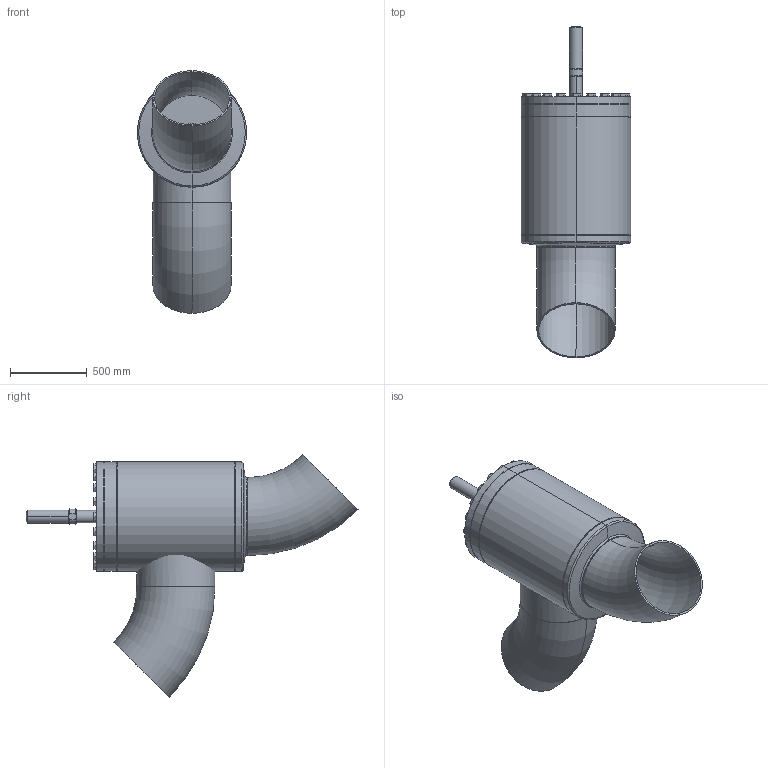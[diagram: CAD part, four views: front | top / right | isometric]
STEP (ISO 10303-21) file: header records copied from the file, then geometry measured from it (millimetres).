
FILE_DESCRIPTION (( 'STEP AP214' ), '1' );
FILE_NAME ('AVR26300C28-DN500_R1_PS25.STEP', '2006-04-28T08:27:47', ( 'Herr Grams' ), ( 'AWP GmbH' ), 'SwSTEP 2.0', 'SolidWorks 2002296', '' );
FILE_SCHEMA (( 'AUTOMOTIVE_DESIGN' ));
Length unit declared in the file: millimetre
Products named in the file (18): AVR26300C28-DN500_R1_PS25; Gehäuse-kpl26300-DN500_R1_Standard; bead-DN500-2_Standard; bead-DN500-3_Standard; bead-DN500-4_Standard; bead-DN500-1_Standard; Boden26300-DN500_Standard; Kopfstück26300-DN500_Standard; Gehäuse26300-DN500_Standard; Rohrstutzen-A26300-DN500_R1_Standard; Rohrbogen 45°_Rohrbogen-DN500-45°; AVR26300B28_Deck+Schr-DN500_Standard; Deckel-kpl26300-DN500_Standard; bead-deck263-500_Standard; Buchse1 f Deckel26300-DN500_Standard; Scheibe f Deckel26300-DN500_Standard; Sechskantschraube-DIN933_M33x 80; Kappe26300_DN500geschw_Standard
Assembly tree (37 placements, depth 4):
  AVR26300C28-DN500_R1_PS25
    Gehäuse-kpl26300-DN500_R1_Standard
      Gehäuse26300-DN500_Standard
      bead-DN500-1_Standard
      Rohrstutzen-A26300-DN500_R1_Standard
      Boden26300-DN500_Standard
      Rohrbogen 45°_Rohrbogen-DN500-45°  x2
      bead-DN500-2_Standard
      bead-DN500-3_Standard
      bead-DN500-4_Standard
      Kopfstück26300-DN500_Standard
    AVR26300B28_Deck+Schr-DN500_Standard
      Sechskantschraube-DIN933_M33x 80  x20
      Deckel-kpl26300-DN500_Standard
        bead-deck263-500_Standard
        Buchse1 f Deckel26300-DN500_Standard
        Scheibe f Deckel26300-DN500_Standard
    Kappe26300_DN500geschw_Standard
Bounding box: 711.44 x 2159.42 x 1578.21 mm (x, y, z)
Volume: 119336720.6 mm3; surface area: 11320108.1 mm2
Topology: 34 solids, 34 shells, 691 faces, 1476 edges, 884 vertices
Faces by surface type: cone 298, plane 224, cylinder 141, bspline 16, torus 12
Entity records: 9764 total; most frequent: CARTESIAN_POINT 3966, DIRECTION 1104, ORIENTED_EDGE 952, AXIS2_PLACEMENT_3D 485, EDGE_CURVE 476, VERTEX_POINT 306, EDGE_LOOP 288, CIRCLE 248
